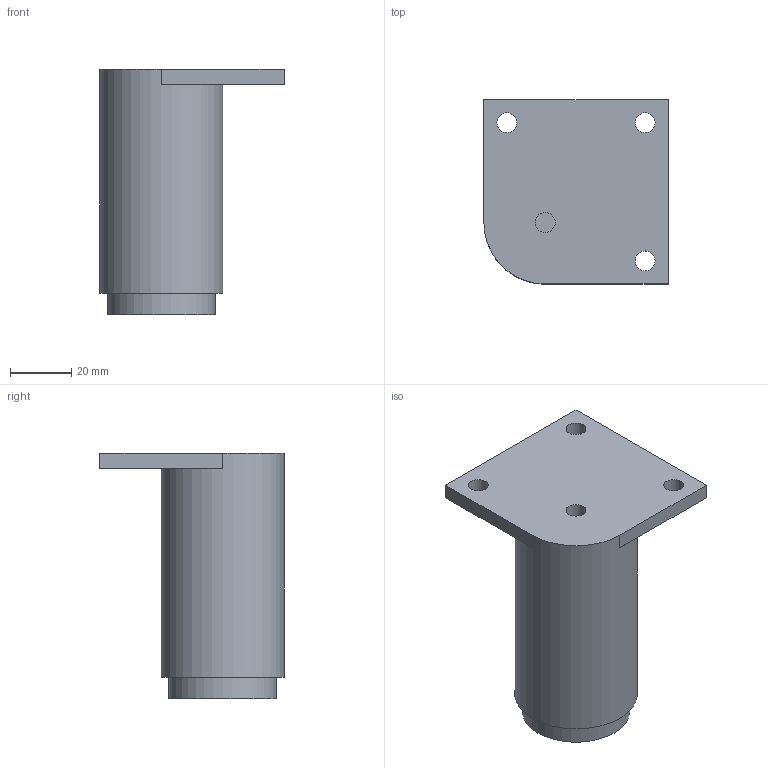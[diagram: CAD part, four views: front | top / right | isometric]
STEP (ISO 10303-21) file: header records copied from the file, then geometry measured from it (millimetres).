
FILE_DESCRIPTION( ( 'STEP AP214' ), '1' );
FILE_NAME( 'D:/Yug/2021/Desk_and_office_organisation/QC/9119551.stp', '2021-01-06T05:07:32', ( '' ), ( '' ), ' ', 'PARTsolutions', ' ' );
FILE_SCHEMA( ( 'AUTOMOTIVE_DESIGN { 1 0 10303 214 1 1 1 1 }' ) );
Length unit declared in the file: millimetre
Products named in the file (1): _9119551
Bounding box: 60 x 60 x 80 mm (x, y, z)
Volume: 109097.3 mm3; surface area: 17709.5 mm2
Topology: 1 solids, 1 shells, 15 faces, 33 edges, 22 vertices
Faces by surface type: plane 9, cylinder 6
Full cylindrical faces by diameter (mm): 6.48 x4, 35 x1, 40 x1
Entity records: 529 total; most frequent: DIRECTION 71, CARTESIAN_POINT 63, ORIENTED_EDGE 52, AXIS2_PLACEMENT_3D 29, EDGE_LOOP 29, EDGE_CURVE 26, FACE_OUTER_BOUND 21, VERTEX_POINT 21
